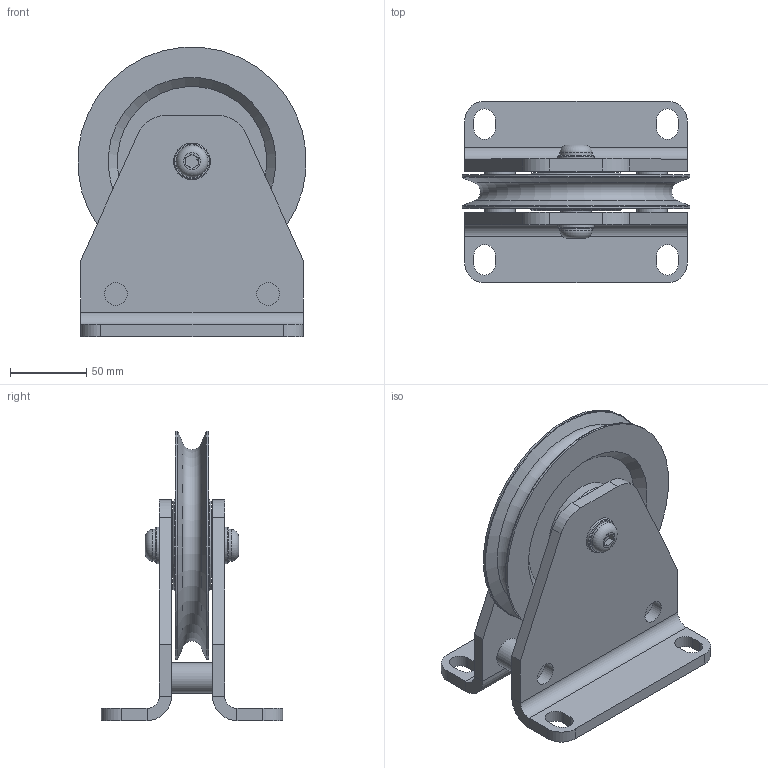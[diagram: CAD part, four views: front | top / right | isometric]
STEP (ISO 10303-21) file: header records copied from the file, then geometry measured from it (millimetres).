
FILE_DESCRIPTION(/* description */ ('Seilrollenbock ø150 Stahl Kugellager komplett'),/* implementation_level */ '2;1');
FILE_NAME(/* name */ 'Z:\Workspace\03 Seilrollen\1.405 K Seilrollenbock Stahl Kugellager\1.405.05 K Seilrollenbock ø150 Stahl Kugellager\1.405.05 K Seilrollenbock ø150 Stahl Kugellager komplett.stp',/* time_stamp */ '2021-10-05T12:41:59+02:00',/* author */ ('cad-user'),/* organization */ (''),/* preprocessor_version */ 'ST-DEVELOPER v18',/* originating_system */ 'Autodesk Inventor 2020',/* authorisation */ '');
FILE_SCHEMA (('AUTOMOTIVE_DESIGN { 1 0 10303 214 3 1 1 }'));
Length unit declared in the file: millimetre
Products named in the file (15): 1.405.05 K Seilrollenbock ø150 Stahl Kugellager komplett; 1.405.05.01 Seilrollenbock Schweißteil; 1.405.05.01 Blech; 1.405.04.01 Distanzachse; 1.402.05 Seilrolle ø150 Kugellager komplett; 1.402.05 Seilrolle ø150 Kugellager; DIN625 - 6004-2RS - P63; din625_-_6004-2rs_-_p63_0_05; din625_-_6004-2rs_-_p63_0_04; din625_-_6004-2rs_-_p63_0_03; din625_-_6004-2rs_-_p63_0_02; din625_-_6004-2rs_-_p63_0_01; 1.405.05.02 Achse; ISO 7380 - M12 x 20; DIN 125-1 - B 13
Assembly tree (19 placements, depth 4):
  1.405.05 K Seilrollenbock ø150 Stahl Kugellager komplett
    1.405.05.01 Seilrollenbock Schweißteil
      1.405.05.01 Blech  x2
      1.405.04.01 Distanzachse  x2
    1.402.05 Seilrolle ø150 Kugellager komplett
      1.402.05 Seilrolle ø150 Kugellager
      DIN625 - 6004-2RS - P63  x2
        din625_-_6004-2rs_-_p63_0_05
        din625_-_6004-2rs_-_p63_0_04
        din625_-_6004-2rs_-_p63_0_03
        din625_-_6004-2rs_-_p63_0_02
        din625_-_6004-2rs_-_p63_0_01
    1.405.05.02 Achse
    ISO 7380 - M12 x 20  x2
    DIN 125-1 - B 13  x2
Bounding box: 149.45 x 119 x 189.72 mm (x, y, z)
Volume: 607841.1 mm3; surface area: 186352.8 mm2
Topology: 20 solids, 20 shells, 232 faces, 613 edges, 433 vertices
Faces by surface type: plane 96, cylinder 73, torus 35, sphere 16, cone 12
Full cylindrical faces by diameter (mm): 10.106 x1, 12 x2, 12.6 x2, 13 x2, 15 x4, 20 x5, 21 x2, 24 x2, 24.4 x8, 26.6 x4, 35.4 x4, 36 x1, 39 x8, 42 x4, 60 x2, 150 x2
Entity records: 5258 total; most frequent: CARTESIAN_POINT 1294, DIRECTION 802, ORIENTED_EDGE 654, AXIS2_PLACEMENT_3D 350, EDGE_CURVE 327, VERTEX_POINT 245, CIRCLE 186, EDGE_LOOP 182
